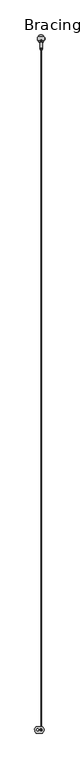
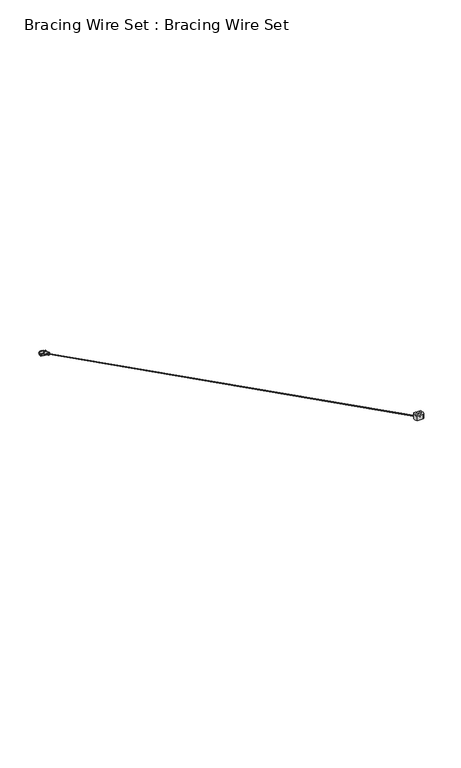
"""IFC4 building model written with IfcOpenShell, lengths in millimetres: proxy geometry, Bracing Wire Set : Bracing Wire Set."""

import ifcopenshell
import ifcopenshell.guid

model = None  # the IFC model being written
_history = None  # IfcOwnerHistory: only IFC2X3 demands one
_inside = {}  # id of a spatial element -> (the spatial element, [elements in it])
_under = {}  # id of a project, library or spatial element -> (it, [spatial elements below it])
_declared = {}  # id of a project -> (the project, [libraries it declares])
_typed = {}  # id of a type object -> (the type object, [elements of that type])
_made_of = {}  # id of a material, layer set ... -> (it, [elements and type objects made of it])


def new_model(schema):
    """Start an empty IFC model of exactly this schema.

    Asked for "IFC4X3", IfcOpenShell would pick the latest addendum, in which some entities
    have other attributes; the version numbers below select the first issue.
    IFC2X3 requires an IfcOwnerHistory on every rooted entity: one is made here for all.
    """
    global model, _history
    if schema == "IFC4X3":
        model = ifcopenshell.file(schema_version=(4, 3, 0, 0))
    else:
        model = ifcopenshell.file(schema=schema)
    _inside.clear()
    _under.clear()
    _declared.clear()
    _typed.clear()
    _made_of.clear()
    _history = None
    if model.schema == "IFC2X3":
        org = make("IfcOrganization", Name="unknown")
        user = make(
            "IfcPersonAndOrganization",
            ThePerson=make("IfcPerson", FamilyName="unknown"),
            TheOrganization=org,
        )
        app = make(
            "IfcApplication",
            ApplicationDeveloper=org,
            Version="unknown",
            ApplicationFullName="unknown",
            ApplicationIdentifier="unknown",
        )
        _history = make(
            "IfcOwnerHistory",
            OwningUser=user,
            OwningApplication=app,
            ChangeAction="ADDED",
            CreationDate=0,
        )
    return model


def make(cls, **values):
    """One entity of the class cls with the attributes given. An attribute that is None is left unset."""
    return model.create_entity(
        cls, **{name: value for name, value in values.items() if value is not None}
    )


def rooted(cls, **values):
    """An entity with a GlobalId (a new one), such as an element, a storey or a relation."""
    return make(cls, GlobalId=ifcopenshell.guid.new(), OwnerHistory=_history, **values)


def si_unit(unit_type, name, prefix=None):
    """IfcSIUnit, for example si_unit("LENGTHUNIT", "METRE", prefix="MILLI")."""
    return make("IfcSIUnit", UnitType=unit_type, Prefix=prefix, Name=name)


def assignment(units):
    """IfcUnitAssignment: the units of a project."""
    return None if units is None else make("IfcUnitAssignment", Units=units)


def point(xyz):
    """IfcCartesianPoint."""
    return None if xyz is None else make("IfcCartesianPoint", Coordinates=xyz)


def direction(xyz):
    """IfcDirection."""
    return None if xyz is None else make("IfcDirection", DirectionRatios=xyz)


def frame(location, z_axis=None, x_axis=None):
    """IfcAxis2Placement3D, a coordinate frame: its origin and axes. An axis left out is left unset."""
    return make(
        "IfcAxis2Placement3D",
        Location=point(location),
        Axis=direction(z_axis),
        RefDirection=direction(x_axis),
    )


def frame_2d(location, x_axis=None):
    """IfcAxis2Placement2D, a coordinate frame in the plane: its origin and x axis."""
    return make(
        "IfcAxis2Placement2D", Location=point(location), RefDirection=direction(x_axis)
    )


def origin():
    """The frame at (0, 0, 0) with its axes left unset."""
    return frame((0.0, 0.0, 0.0))


def origin_with_axes():
    """The frame at (0, 0, 0) with the z axis (0, 0, 1) and the x axis (1, 0, 0) written out."""
    return frame((0.0, 0.0, 0.0), z_axis=(0.0, 0.0, 1.0), x_axis=(1.0, 0.0, 0.0))


def place(relative_to, where):
    """IfcLocalPlacement: puts the frame where relative to a parent placement (None: the world)."""
    return make(
        "IfcLocalPlacement", PlacementRelTo=relative_to, RelativePlacement=where
    )


def context(
    kind, dimensions, precision=None, world=None, true_north=None, identifier=None
):
    """IfcGeometricRepresentationContext, for example the 3D "Model" context."""
    return make(
        "IfcGeometricRepresentationContext",
        ContextIdentifier=identifier,
        ContextType=kind,
        CoordinateSpaceDimension=dimensions,
        Precision=precision,
        WorldCoordinateSystem=world,
        TrueNorth=true_north,
    )


def project(units=None, contexts=None):
    """IfcProject with its units and contexts."""
    return rooted(
        "IfcProject",
        Name="project",
        RepresentationContexts=contexts,
        UnitsInContext=assignment(units),
    )


def spatial(cls, under=None, at=None, **own):
    """A site, building, storey or space (cls), placed at a placement, below another one or the project."""
    s = rooted(cls, ObjectPlacement=at, **own)
    if under is not None:
        _under.setdefault(under.id(), (under, []))[1].append(s)
    return s


def polyline(points):
    """IfcPolyline through the points."""
    return make("IfcPolyline", Points=[point(p) for p in points])


def circle_curve(where, radius):
    """IfcCircle in the frame where."""
    return make("IfcCircle", Position=where, Radius=radius)


def trimmed(basis, trim1, trim2, sense, master):
    """IfcTrimmedCurve: the piece of a basis curve between two trims."""
    return make(
        "IfcTrimmedCurve",
        BasisCurve=basis,
        Trim1=trim1,
        Trim2=trim2,
        SenseAgreement=sense,
        MasterRepresentation=master,
    )


def segment(curve, same_sense, transition):
    """IfcCompositeCurveSegment."""
    return make(
        "IfcCompositeCurveSegment",
        Transition=transition,
        SameSense=same_sense,
        ParentCurve=curve,
    )


def composite_curve(segments, self_intersect=None):
    """IfcCompositeCurve: segments joined end to end."""
    return make("IfcCompositeCurve", Segments=segments, SelfIntersect=self_intersect)


def outline(outer, holes=None, kind="AREA"):
    """IfcArbitraryClosedProfileDef: a profile drawn as a closed curve; with holes, ...WithVoids."""
    if holes is None:
        return make("IfcArbitraryClosedProfileDef", ProfileType=kind, OuterCurve=outer)
    return make(
        "IfcArbitraryProfileDefWithVoids",
        ProfileType=kind,
        OuterCurve=outer,
        InnerCurves=holes,
    )


def extrude(swept, where, along, depth):
    """IfcExtrudedAreaSolid: the profile swept, set in the frame where, extruded along a direction by depth."""
    return make(
        "IfcExtrudedAreaSolid",
        SweptArea=swept,
        Position=where,
        ExtrudedDirection=direction(along),
        Depth=depth,
    )


def faces_of(points, faces, orient=None, outer=None):
    """IfcFace entities. A face is a list of loops; a loop is a list of indices into points, from 0.

    orient and outer hold one flag for each loop. By default every Orientation is true, the
    first loop of a face is its IfcFaceOuterBound and the others are IfcFaceBound.
    """
    made = []
    for i, loops in enumerate(faces):
        bounds = []
        for j, loop in enumerate(loops):
            is_outer = j == 0 if outer is None else outer[i][j]
            bounds.append(
                make(
                    "IfcFaceOuterBound" if is_outer else "IfcFaceBound",
                    Bound=make("IfcPolyLoop", Polygon=[points[k] for k in loop]),
                    Orientation=True if orient is None else orient[i][j],
                )
            )
        made.append(make("IfcFace", Bounds=bounds))
    return made


def faceted_brep(points, faces, orient=None, outer=None, voids=None):
    """IfcFacetedBrep: a solid bounded by flat faces; with voids (closed shells), ...WithVoids."""
    shared = [point(p) for p in points]
    hull = make("IfcClosedShell", CfsFaces=faces_of(shared, faces, orient, outer))
    if voids is None:
        return make("IfcFacetedBrep", Outer=hull)
    return make(
        "IfcFacetedBrepWithVoids",
        Outer=hull,
        Voids=[
            make(cls, CfsFaces=faces_of(shared, fs, o, b)) for cls, fs, o, b in voids
        ],
    )


def shape(context_of_items, identifier, shape_type, items):
    """IfcShapeRepresentation: the items that make up one representation, for example the "Body"."""
    return make(
        "IfcShapeRepresentation",
        ContextOfItems=context_of_items,
        RepresentationIdentifier=identifier,
        RepresentationType=shape_type,
        Items=items,
    )


def source(mapping_origin, context_of_items, identifier, shape_type, items):
    """IfcRepresentationMap: a shape defined once, which mapped items show again and again."""
    return make(
        "IfcRepresentationMap",
        MappingOrigin=mapping_origin,
        MappedRepresentation=shape(context_of_items, identifier, shape_type, items),
    )


def transform(
    local_origin,
    x_axis=None,
    y_axis=None,
    z_axis=None,
    scale=None,
    scale2=None,
    scale3=None,
    uniform=True,
):
    """IfcCartesianTransformationOperator3D, or its non-uniform kind. x_axis, y_axis, z_axis: its Axis1, 2, 3."""
    if uniform:
        return make(
            "IfcCartesianTransformationOperator3D",
            Axis1=direction(x_axis),
            Axis2=direction(y_axis),
            LocalOrigin=point(local_origin),
            Scale=scale,
            Axis3=direction(z_axis),
        )
    return make(
        "IfcCartesianTransformationOperator3DnonUniform",
        Axis1=direction(x_axis),
        Axis2=direction(y_axis),
        LocalOrigin=point(local_origin),
        Scale=scale,
        Axis3=direction(z_axis),
        Scale2=scale2,
        Scale3=scale3,
    )


def mapped(mapping_source, mapping_target):
    """IfcMappedItem: shows the shape of a source again, moved by a transform."""
    return make(
        "IfcMappedItem", MappingSource=mapping_source, MappingTarget=mapping_target
    )


def made_of(thing, what):
    """Note that an element or type object is made of a material, layer set ...; save() writes the relation."""
    if what is not None:
        _made_of.setdefault(what.id(), (what, []))[1].append(thing)
    return thing


def element(
    cls,
    number,
    at=None,
    inside=None,
    cuts=None,
    type_object=None,
    material=None,
    context=None,
    identifier="Body",
    shape_type=None,
    held_by="IfcProductDefinitionShape",
    body=None,
    shapes=None,
    **own,
):
    """One element of the class cls, such as IfcWall. Its Tag is "e" and its number.

    at: its placement. inside: the storey or other place that contains it. cuts: it is an
    opening in that element (IfcRelVoidsElement). A single representation is given by context,
    identifier, shape_type and body (its items); several are given by shapes. held_by: the class
    of the entity that holds the representations. save() writes the other relations.
    """
    e = rooted(cls, Tag="e%d" % number, ObjectPlacement=at, **own)
    if body is not None:
        shapes = [shape(context, identifier, shape_type, body)]
    if shapes is not None:
        e.Representation = make(held_by, Representations=shapes)
    if inside is not None:
        _inside.setdefault(inside.id(), (inside, []))[1].append(e)
    if cuts is not None:
        rooted(
            "IfcRelVoidsElement", RelatingBuildingElement=cuts, RelatedOpeningElement=e
        )
    if type_object is not None:
        _typed.setdefault(type_object.id(), (type_object, []))[1].append(e)
    return made_of(e, material)


def aggregate(whole, parts):
    """IfcRelAggregates: a whole, such as a stair, and the parts it consists of."""
    return rooted("IfcRelAggregates", RelatingObject=whole, RelatedObjects=parts)


def save(model, path):
    """Write the relations noted so far, then the file.

    IfcRelAggregates (storeys below a building ...), IfcRelContainedInSpatialStructure (elements
    in a storey), IfcRelDefinesByType, IfcRelAssociatesMaterial and IfcRelDeclares: one each for
    every whole, place, type object, material and project.
    """
    for whole, parts in _under.values():
        aggregate(whole, parts)
    for where, things in _inside.values():
        rooted(
            "IfcRelContainedInSpatialStructure",
            RelatedElements=things,
            RelatingStructure=where,
        )
    for kind, things in _typed.values():
        rooted("IfcRelDefinesByType", RelatedObjects=things, RelatingType=kind)
    for what, things in _made_of.values():
        rooted("IfcRelAssociatesMaterial", RelatedObjects=things, RelatingMaterial=what)
    for by, libraries in _declared.values():
        rooted("IfcRelDeclares", RelatingContext=by, RelatedDefinitions=libraries)
    model.write(path)


def bracing_wire_set_bracing_wire_set_f6dc7ab1(model_context):
    return source(origin(), model_context, "Body", "SolidModel", [
        extrude(outline(composite_curve([segment(polyline([(-396.2736485, -1971.3294688), (-414.2097995, -1971.3294688)]), True, "CONTINUOUS"), segment(trimmed(circle_curve(frame_2d((-405.6549014, -1961.8486387)), 12.7699813), [point((-414.2097995, -1971.3294688))], [point((-414.7806619, -1952.9159505))], False, "CARTESIAN"), True, "CONTINUOUS"), segment(polyline([(-414.7806619, -1952.9159505), (-395.7036855, -1952.9159505)]), True, "CONTINUOUS"), segment(trimmed(circle_curve(frame_2d((-404.7764292, -1961.8506976)), 12.7335927), [point((-395.7036855, -1952.9159505))], [point((-396.2736485, -1971.3294688))], False, "CARTESIAN"), True, "CONTINUOUS")], self_intersect=False), holes=[composite_curve([segment(trimmed(circle_curve(frame_2d((-400.0583001, -1962.1903751)), 3.0), [point((-403.0583001, -1962.1903751))], [point((-397.0583001, -1962.1903751))], True, "CARTESIAN"), True, "CONTINUOUS"), segment(trimmed(circle_curve(frame_2d((-400.0583001, -1962.1903751)), 3.0), [point((-397.0583001, -1962.1903751))], [point((-403.0583001, -1962.1903751))], True, "CARTESIAN"), True, "CONTINUOUS")], self_intersect=False), composite_curve([segment(trimmed(circle_curve(frame_2d((-410.0583001, -1962.1903751)), 3.0), [point((-413.0583001, -1962.1903751))], [point((-407.0583001, -1962.1903751))], True, "CARTESIAN"), True, "CONTINUOUS"), segment(trimmed(circle_curve(frame_2d((-410.0583001, -1962.1903751)), 3.0), [point((-407.0583001, -1962.1903751))], [point((-413.0583001, -1962.1903751))], True, "CARTESIAN"), True, "CONTINUOUS")], self_intersect=False)]), frame((0.0, 0.0, 985.9085769), z_axis=(0.0, 0.0, 1.0), x_axis=(1.0, 0.0, 0.0)), (0.0, 0.0, 1.0), 14.0914231),
        faceted_brep([(-399.2301452, -2.816482, 3.2150732), (-398.9112608, -3.1621777, 2.527199), (-399.2301452, -3.5078734, 1.8393247), (-400.0, -3.6510653, 1.5543979), (-400.7698548, -3.5078734, 1.8393247), (-401.0887392, -3.1621777, 2.527199), (-400.7698548, -2.816482, 3.2150732), (-400.0, -2.6732901, 3.5), (-399.2301452, -1971.3294688, 992.5042672), (-398.9112608, -1971.3294688, 991.6426613), (-399.2301452, -1971.3294688, 990.7810555), (-400.0, -1971.3294688, 990.4241666), (-400.7698548, -1971.3294688, 990.7810555), (-401.0887392, -1971.3294688, 991.6426613), (-400.7698548, -1971.3294688, 992.5042672), (-400.0, -1971.3294688, 992.8611561)], [[[0, 1, 2, 3, 4, 5, 6, 7]], [[0, 8, 9, 1]], [[1, 9, 10, 2]], [[2, 10, 11, 3]], [[3, 11, 12, 4]], [[4, 12, 13, 5]], [[5, 13, 14, 6]], [[6, 14, 15, 7]], [[7, 15, 8, 0]], [[8, 15, 14, 13, 12, 11, 10, 9]]]),
        extrude(outline(composite_curve([segment(trimmed(circle_curve(frame_2d((-400.9657166, -0.093637)), 8.6418309), [point((-408.6260848, -4.093637))], [point((-408.6260848, 3.906363))], False, "CARTESIAN"), True, "CONTINUOUS"), segment(polyline([(-408.6260848, 3.906363), (-391.8573632, 3.906363)]), True, "CONTINUOUS"), segment(trimmed(circle_curve(frame_2d((-399.5177315, -0.093637)), 8.6418309), [point((-391.8573632, 3.906363))], [point((-391.8573632, -4.093637))], False, "CARTESIAN"), True, "CONTINUOUS"), segment(polyline([(-391.8573632, -4.093637), (-408.6260848, -4.093637)]), True, "CONTINUOUS")], self_intersect=False)), frame((0.0, 0.0, -4.3497354), z_axis=(0.0, 0.0, 1.0), x_axis=(1.0, 0.0, 0.0)), (0.0, 0.0, 1.0), 4.3497354),
        extrude(outline(composite_curve([segment(trimmed(circle_curve(frame_2d((0.0, 2.0419803)), 2.0419802), [point((0.0, 4.0839605))], [point((0.0, 0.0))], False, "CARTESIAN"), True, "CONTINUOUS"), segment(trimmed(circle_curve(frame_2d((0.0, 2.0419803)), 2.0419802), [point((0.0, 0.0))], [point((0.0, 4.0839605))], False, "CARTESIAN"), True, "CONTINUOUS")], self_intersect=False)), frame((-397.8517245, -29.3301112, 15.5691884), z_axis=(0.0, -0.8935115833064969, 0.44904014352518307), x_axis=(0.0, 0.44904014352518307, 0.8935115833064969)), (0.0, 0.0, 1.0), 3.8149593),
        extrude(outline(composite_curve([segment(trimmed(circle_curve(frame_2d((0.0, 3.526017)), 3.5260169), [point((0.0, 7.0520339))], [point((0.0, 0.0))], False, "CARTESIAN"), True, "CONTINUOUS"), segment(trimmed(circle_curve(frame_2d((0.0, 3.526017)), 3.5260169), [point((0.0, 0.0))], [point((0.0, 7.0520339))], False, "CARTESIAN"), True, "CONTINUOUS")], self_intersect=False)), frame((-396.1588422, -11.3894669, 6.7284944), z_axis=(0.0, -0.8935115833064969, 0.44904014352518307), x_axis=(0.0, 0.44904014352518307, 0.8935115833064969)), (0.0, 0.0, 1.0), 20.0),
        extrude(outline(composite_curve([segment(trimmed(circle_curve(frame_2d((0.0, 4.6190623)), 4.6190623), [point((0.0, 9.2381245))], [point((0.0, 0.0))], False, "CARTESIAN"), True, "CONTINUOUS"), segment(trimmed(circle_curve(frame_2d((0.0, 4.6190623)), 4.6190623), [point((0.0, 0.0))], [point((0.0, 9.2381245))], False, "CARTESIAN"), True, "CONTINUOUS")], self_intersect=False)), frame((-395.2117226, -10.4529811, 6.3649655), z_axis=(0.0, -0.8935115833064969, 0.44904014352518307), x_axis=(0.0, 0.44904014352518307, 0.8935115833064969)), (0.0, 0.0, 1.0), 1.0),
        extrude(outline(composite_curve([segment(trimmed(circle_curve(frame_2d((-400.2064846, -0.1848983)), 10.6943727), [point((-410.9008572, -0.1848983))], [point((-389.5121119, -0.1848983))], False, "CARTESIAN"), True, "CONTINUOUS"), segment(trimmed(circle_curve(frame_2d((-400.2064846, -0.1848983)), 10.6943727), [point((-389.5121119, -0.1848983))], [point((-410.9008572, -0.1848983))], False, "CARTESIAN"), True, "CONTINUOUS")], self_intersect=False)), origin_with_axes(), (0.0, 0.0, 1.0), 1.0),
        extrude(outline(composite_curve([segment(polyline([(-391.2736485, -5.093637), (-409.2097995, -5.093637)]), True, "CONTINUOUS"), segment(trimmed(circle_curve(frame_2d((-400.9657166, -0.093637)), 9.6418309), [point((-409.2097995, -5.093637))], [point((-409.2097995, 4.906363))], False, "CARTESIAN"), True, "CONTINUOUS"), segment(polyline([(-409.2097995, 4.906363), (-391.2736485, 4.906363)]), True, "CONTINUOUS"), segment(trimmed(circle_curve(frame_2d((-399.5177315, -0.093637)), 9.6418309), [point((-391.2736485, 4.906363))], [point((-391.2736485, -5.093637))], False, "CARTESIAN"), True, "CONTINUOUS")], self_intersect=False)), frame((0.0, 0.0, 1.0), z_axis=(0.0, 0.0, 1.0), x_axis=(1.0, 0.0, 0.0)), (0.0, 0.0, 1.0), 2.5),
    ])


if __name__ == "__main__":
    model = new_model("IFC4")
    model_context = context("Model", 3, world=origin())
    ifc_project = project(units=[si_unit("LENGTHUNIT", "METRE", prefix="MILLI")], contexts=[model_context])
    site = spatial("IfcSite", under=ifc_project)
    building = spatial("IfcBuilding", under=site)
    placement = place(None, origin())
    bracing_wire_set_bracing_wire_set_shape = bracing_wire_set_bracing_wire_set_f6dc7ab1(model_context)
    element("IfcBuildingElementProxy", 1, Name="Bracing Wire Set : Bracing Wire Set", ObjectType="Bracing Wire Set : Bracing Wire Set", at=placement, inside=building, context=model_context, shape_type="MappedRepresentation", body=[
        mapped(bracing_wire_set_bracing_wire_set_shape, transform((0.0, 0.0, 0.0), x_axis=(1.0, 0.0, 0.0), y_axis=(0.0, 1.0, 0.0), z_axis=(0.0, 0.0, 1.0))),
    ])
    save(model, "model.ifc")
